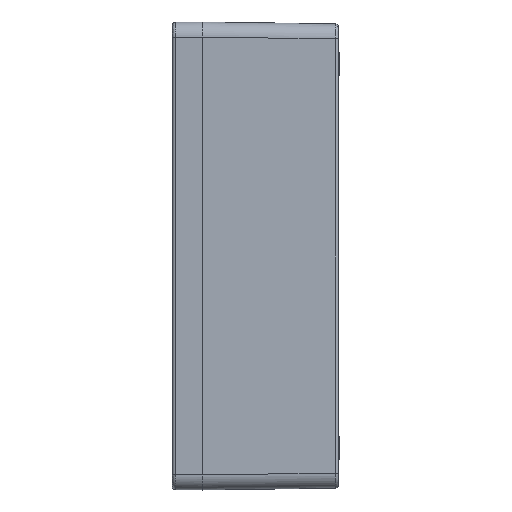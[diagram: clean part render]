
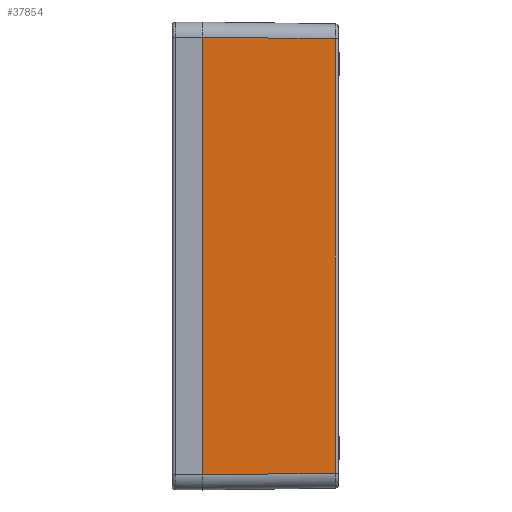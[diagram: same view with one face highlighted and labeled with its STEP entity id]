
A CAD part, left-side view. The second image highlights one B-rep face of the part: STEP entity #37854.
In plain terms, the highlighted planar face has unit normal (-1, -0.014, 0) as drawn and (1, -0.014, 0) by its records, which use the part's own axes.
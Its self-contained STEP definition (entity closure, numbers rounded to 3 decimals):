
#8443=DIRECTION('',(0.,0.,1.));
#8444=VECTOR('',#8443,289.852);
#8445=CARTESIAN_POINT('',(201.175,0.,-144.926));
#8446=LINE('',#8445,#8444);
#8456=CARTESIAN_POINT('',(201.175,0.,144.926));
#14135=DIRECTION('',(0.014,1.,0.014));
#14136=VECTOR('',#14135,88.044);
#14137=CARTESIAN_POINT('',(199.977,-88.027,
143.728));
#14138=LINE('',#14137,#14136);
#14142=DIRECTION('',(0.014,1.,-0.014));
#14143=VECTOR('',#14142,88.044);
#14144=CARTESIAN_POINT('',(199.977,-88.027,
-143.728));
#14145=LINE('',#14144,#14143);
#14149=DIRECTION('',(0.,0.,1.));
#14150=VECTOR('',#14149,287.456);
#14151=CARTESIAN_POINT('',(199.977,-88.027,
-143.728));
#14152=LINE('',#14151,#14150);
#24387=VERTEX_POINT('',#8456);
#24388=CARTESIAN_POINT('',(199.977,-88.027,
143.728));
#24389=VERTEX_POINT('',#24388);
#24394=CARTESIAN_POINT('',(201.175,0.,-144.926));
#24395=VERTEX_POINT('',#24394);
#24396=CARTESIAN_POINT('',(199.977,-88.027,
-143.728));
#24397=VERTEX_POINT('',#24396);
#37841=CARTESIAN_POINT('',(200.563,-45.,0.));
#37842=DIRECTION('',(1.,-0.014,0.));
#37843=DIRECTION('',(0.014,1.,0.));
#37844=AXIS2_PLACEMENT_3D('',#37841,#37842,#37843);
#37845=PLANE('',#37844);
#37846=ORIENTED_EDGE('',*,*,#37826,.T.);
#37847=ORIENTED_EDGE('',*,*,#29806,.F.);
#37849=ORIENTED_EDGE('',*,*,#37848,.F.);
#37851=ORIENTED_EDGE('',*,*,#37850,.T.);
#37852=EDGE_LOOP('',(#37846,#37847,#37849,#37851));
#37853=FACE_OUTER_BOUND('',#37852,.F.);
#29806=EDGE_CURVE('',#24395,#24387,#8446,.T.);
#37826=EDGE_CURVE('',#24389,#24387,#14138,.T.);
#37848=EDGE_CURVE('',#24397,#24395,#14145,.T.);
#37850=EDGE_CURVE('',#24397,#24389,#14152,.T.);
#37854=ADVANCED_FACE('',(#37853),#37845,.T.);
